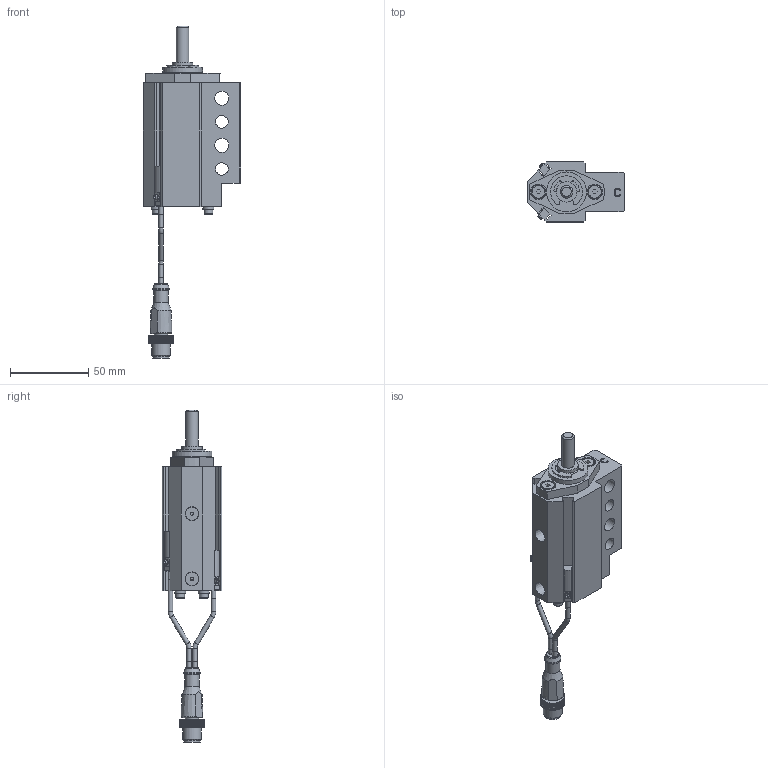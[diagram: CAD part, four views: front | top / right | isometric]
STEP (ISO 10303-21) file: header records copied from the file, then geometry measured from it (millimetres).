
FILE_DESCRIPTION(/* description */ ('NAAMS FLOATING MICRO PIN'),/* implementation_level */ '2;1');
FILE_NAME(/* name */ 'C:\Vault Workspace\CAD\Welker\Shot Pin\NMP\NMP080022ECNL3.stp',/* time_stamp */ '2021-01-28T11:52:26-05:00',/* author */ ('WELKER'),/* organization */ (''),/* preprocessor_version */ 'ST-DEVELOPER v18.1',/* originating_system */ 'Autodesk Inventor 2020',/* authorisation */ '');
FILE_SCHEMA (('AUTOMOTIVE_DESIGN { 1 0 10303 214 3 1 1 }'));
Length unit declared in the file: millimetre
Products named in the file (16): NMPL01; NMP L3 SWITCH; L3 Connector; L3 Sensor 1; L3 Sensor 2; L3 Sensor cable; L3 Sensor cable 2; M3X0.5-8 SHCS; NL3; NMPE06; NMPE03; NMPE04-DIA-LENGTH; 985432A218; NMPE01C-PORT; RMPE02; M5X5 SHOULDER
Assembly tree (22 placements, depth 3):
  NMPL01
    NMP L3 SWITCH
      L3 Connector
      L3 Sensor 1
      L3 Sensor 2
      L3 Sensor cable
      L3 Sensor cable 2
    M3X0.5-8 SHCS  x4
    NL3  x4
    NMPE06
    NMPE03
    NMPE04-DIA-LENGTH
    985432A218
    NMPE01C-PORT
    RMPE02
    M5X5 SHOULDER  x2
Bounding box: 62 x 38.1 x 211.52 mm (x, y, z)
Volume: 110531.5 mm3; surface area: 45433 mm2
Topology: 21 solids, 21 shells, 752 faces, 2037 edges, 1361 vertices
Faces by surface type: plane 546, cylinder 144, cone 31, bspline 18, torus 11, sphere 2
Full cylindrical faces by diameter (mm): 2 x2, 2.459 x4, 2.9 x10, 3 x5, 3.242 x2, 3.4 x4, 4 x2, 5 x6, 5.5 x4, 7 x4, 8 x3, 8.3 x2, 9 x5, 10 x3, 10.4 x1, 10.5 x1, 12 x1, 13 x3, 16 x2, 19.05 x3, 21 x1, 22.5 x1, 23.672 x1, 24 x1, 25.4 x1, 25.5 x1, 26.5 x1, 28.677 x1, 29.21 x1, 31.75 x2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
Entity records: 23031 total; most frequent: CARTESIAN_POINT 4361, ORIENTED_EDGE 3772, DIRECTION 3689, EDGE_CURVE 1886, LINE 1377, VECTOR 1377, VERTEX_POINT 1266, AXIS2_PLACEMENT_3D 1156
